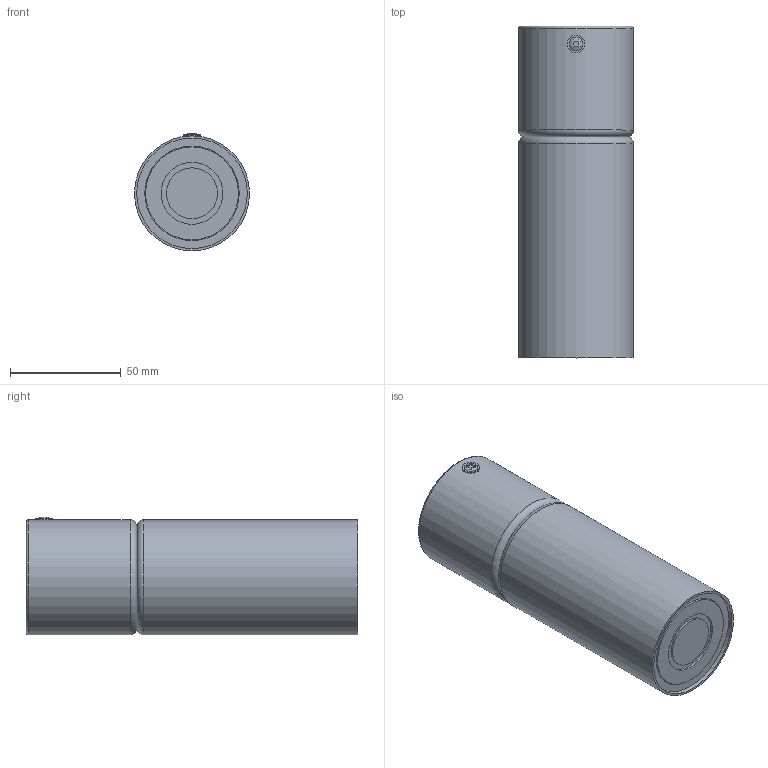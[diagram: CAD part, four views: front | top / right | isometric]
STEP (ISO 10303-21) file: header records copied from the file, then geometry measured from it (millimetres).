
FILE_DESCRIPTION(/* description */ (''),/* implementation_level */ '2;1');
FILE_NAME(/* name */ 'C:/Users/kubaw/OneDrive/Pulpit/Nowy folder/4426_LOGAN v6/4426_LOGAN v6.step',/* time_stamp */ '2021-03-13T10:26:10+01:00',/* author */ (''),/* organization */ (''),/* preprocessor_version */ 'ST-DEVELOPER v18.1',/* originating_system */ 'Autodesk Translation Framework v9.10.0.1330',/* authorisation */ '');
FILE_SCHEMA (('AUTOMOTIVE_DESIGN { 1 0 10303 214 3 1 1 }'));
Length unit declared in the file: millimetre
Products named in the file (3): 4426_LOGAN; Component1; Halogen (LOGAN)
Assembly tree (2 placements, depth 3):
  4426_LOGAN
    Component1
      Halogen (LOGAN)
Bounding box: 52 x 150 x 53.2 mm (x, y, z)
Volume: 307529.2 mm3; surface area: 40354.6 mm2
Topology: 5 solids, 5 shells, 49 faces, 95 edges, 63 vertices
Faces by surface type: plane 29, cylinder 15, torus 4, bspline 1
Full cylindrical faces by diameter (mm): 8 x1, 23 x1, 28 x2, 28.435 x1, 32 x1, 42 x1, 42.721 x1, 50 x1, 52 x2
Entity records: 1446 total; most frequent: CARTESIAN_POINT 303, DIRECTION 235, ORIENTED_EDGE 190, AXIS2_PLACEMENT_3D 98, EDGE_CURVE 95, VERTEX_POINT 63, EDGE_LOOP 56, FACE_OUTER_BOUND 49
